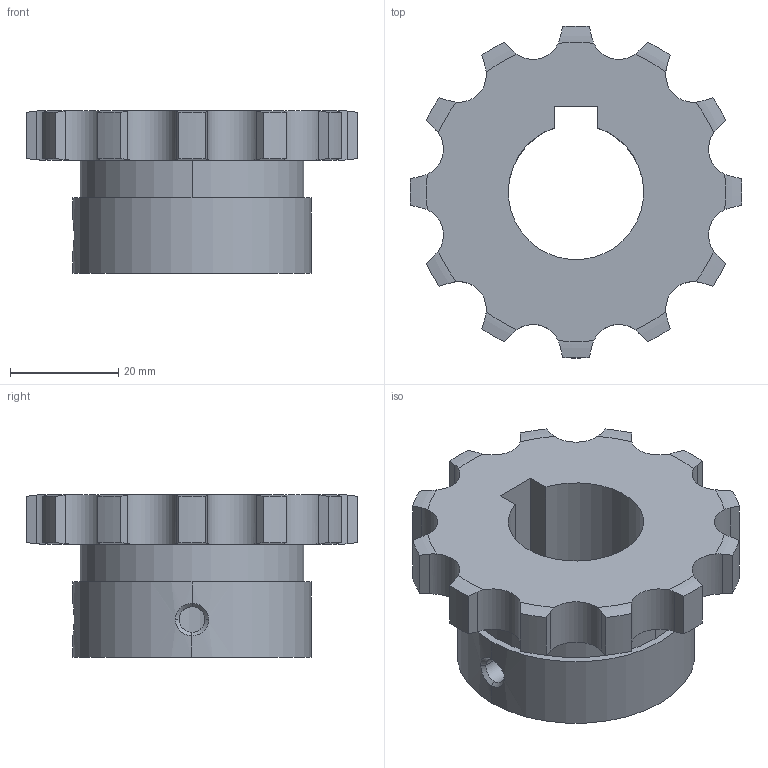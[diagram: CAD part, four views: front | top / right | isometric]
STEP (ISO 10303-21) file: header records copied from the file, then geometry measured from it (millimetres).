
FILE_DESCRIPTION((''),'2;1');
FILE_NAME('510-301-2512_PRT','2021-02-13T',('Brieden'),('Brieden'),'PRO/ENGINEER BY PARAMETRIC TECHNOLOGY CORPORATION, 2010160','PRO/ENGINEER BY PARAMETRIC TECHNOLOGY CORPORATION, 2010160','');
FILE_SCHEMA(('AUTOMOTIVE_DESIGN { 1 0 10303 214 1 1 1 1 }'));
Length unit declared in the file: millimetre
Products named in the file (1): 510-301-2512_PRT
Bounding box: 61.32 x 61.32 x 30 mm (x, y, z)
Volume: 37114.4 mm3; surface area: 12004.8 mm2
Topology: 1 solids, 1 shells, 94 faces, 267 edges, 176 vertices
Faces by surface type: cylinder 57, torus 24, plane 7, bspline 6
Entity records: 4652 total; most frequent: CARTESIAN_POINT 1480, ORIENTED_EDGE 534, DIRECTION 417, PRESENTATION_STYLE_ASSIGNMENT 268, STYLED_ITEM 268, CURVE_STYLE 267, EDGE_CURVE 267, VERTEX_POINT 176
